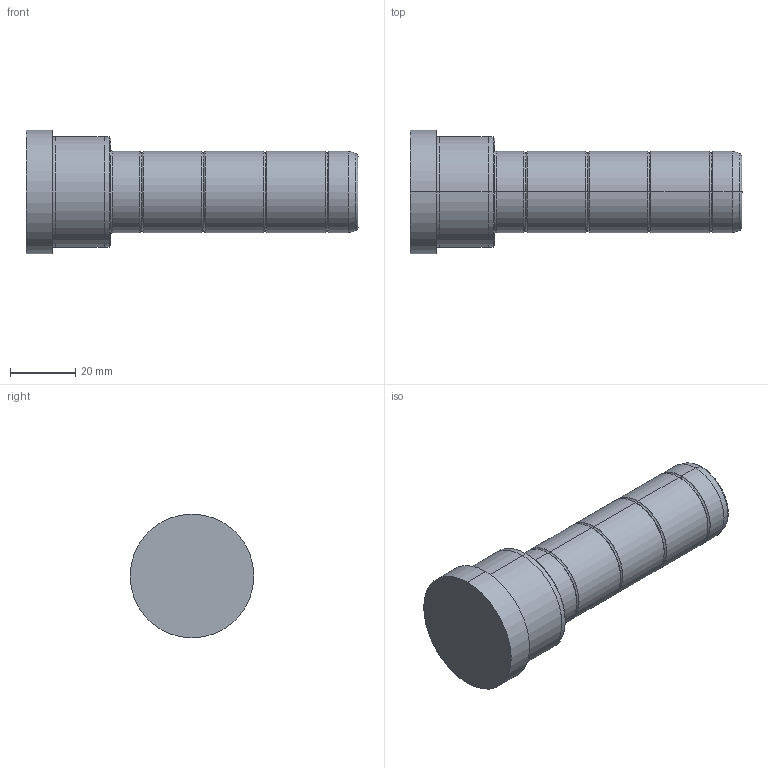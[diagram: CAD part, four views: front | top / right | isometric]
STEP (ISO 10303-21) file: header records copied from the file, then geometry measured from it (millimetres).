
FILE_DESCRIPTION( ( 'STEP AP203' ), '1' );
FILE_NAME( 'C:/Projects/D02 - 25x26x76.step', '2002-12-31T22:12:25', ( ' ' ), ( ' ' ), 'XStep 1.0', ' ', ' ' );
FILE_SCHEMA( ( 'CONFIG_CONTROL_DESIGN' ) );
Length unit declared in the file: metre
Products named in the file (1): 1
Bounding box: 102 x 38 x 38 mm (x, y, z)
Volume: 62506.8 mm3; surface area: 11158.9 mm2
Topology: 1 solids, 1 shells, 48 faces, 94 edges, 52 vertices
Faces by surface type: bspline 26, revolution 22
Entity records: 1523 total; most frequent: CARTESIAN_POINT 617, ORIENTED_EDGE 188, DIRECTION 150, EDGE_CURVE 94, AXIS2_PLACEMENT_3D 53, EDGE_LOOP 52, VERTEX_POINT 52, CIRCLE 52
